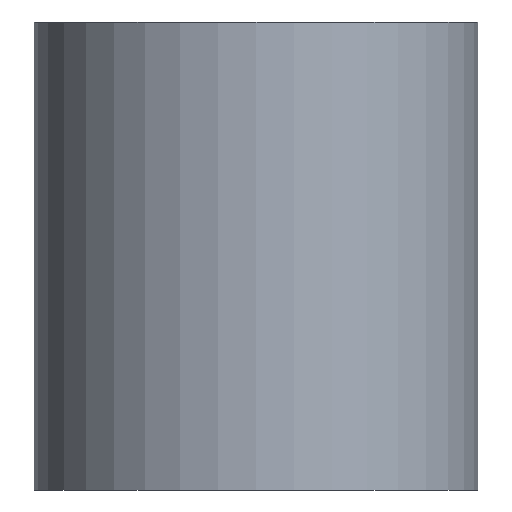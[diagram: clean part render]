
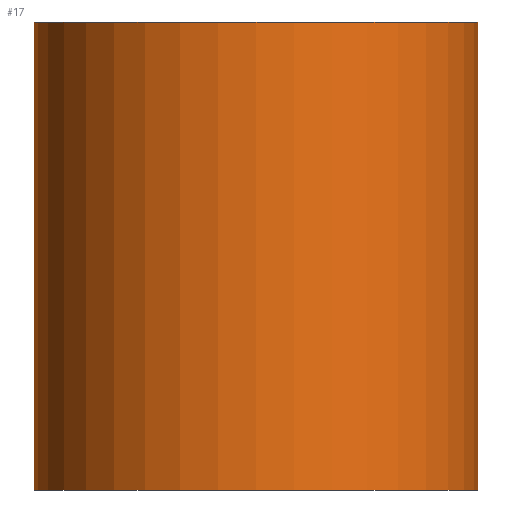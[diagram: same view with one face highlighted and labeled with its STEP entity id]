
A CAD part, front view. The second image highlights one B-rep face of the part: STEP entity #17.
In plain terms, the highlighted cylindrical face has radius 18 mm (diameter 36 mm), a full revolution.
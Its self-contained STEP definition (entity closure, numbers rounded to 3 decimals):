
#17 = ADVANCED_FACE('',(#18),#31,.T.);
#18 = FACE_BOUND('',#19,.T.);
#19 = EDGE_LOOP('',(#20,#54,#77,#104));
#20 = ORIENTED_EDGE('',*,*,#21,.F.);
#21 = EDGE_CURVE('',#22,#22,#24,.T.);
#22 = VERTEX_POINT('',#23);
#23 = CARTESIAN_POINT('',(-187.,-265.913,30.));
#24 = SURFACE_CURVE('',#25,(#30,#42),.PCURVE_S1.);
#25 = CIRCLE('',#26,18.);
#26 = AXIS2_PLACEMENT_3D('',#27,#28,#29);
#27 = CARTESIAN_POINT('',(-205.,-265.913,30.));
#28 = DIRECTION('',(0.,0.,1.));
#29 = DIRECTION('',(1.,0.,-0.));
#30 = PCURVE('',#31,#36);
#31 = CYLINDRICAL_SURFACE('',#32,18.);
#32 = AXIS2_PLACEMENT_3D('',#33,#34,#35);
#33 = CARTESIAN_POINT('',(-205.,-265.913,-8.));
#34 = DIRECTION('',(0.,0.,1.));
#35 = DIRECTION('',(1.,0.,-0.));
#36 = DEFINITIONAL_REPRESENTATION('',(#37),#41);
#37 = LINE('',#38,#39);
#38 = CARTESIAN_POINT('',(0.,38.));
#39 = VECTOR('',#40,1.);
#40 = DIRECTION('',(1.,0.));
#41 = ( GEOMETRIC_REPRESENTATION_CONTEXT(2) 
PARAMETRIC_REPRESENTATION_CONTEXT() REPRESENTATION_CONTEXT('2D SPACE',''
  ) );
#42 = PCURVE('',#43,#48);
#43 = PLANE('',#44);
#44 = AXIS2_PLACEMENT_3D('',#45,#46,#47);
#45 = CARTESIAN_POINT('',(-205.,-265.913,30.));
#46 = DIRECTION('',(0.,0.,1.));
#47 = DIRECTION('',(1.,0.,-0.));
#48 = DEFINITIONAL_REPRESENTATION('',(#49),#53);
#49 = CIRCLE('',#50,18.);
#50 = AXIS2_PLACEMENT_2D('',#51,#52);
#51 = CARTESIAN_POINT('',(0.,0.));
#52 = DIRECTION('',(1.,0.));
#53 = ( GEOMETRIC_REPRESENTATION_CONTEXT(2) 
PARAMETRIC_REPRESENTATION_CONTEXT() REPRESENTATION_CONTEXT('2D SPACE',''
  ) );
#54 = ORIENTED_EDGE('',*,*,#55,.F.);
#55 = EDGE_CURVE('',#56,#22,#58,.T.);
#56 = VERTEX_POINT('',#57);
#57 = CARTESIAN_POINT('',(-187.,-265.913,-8.));
#58 = SEAM_CURVE('',#59,(#63,#70),.PCURVE_S1.);
#59 = LINE('',#60,#61);
#60 = CARTESIAN_POINT('',(-187.,-265.913,-8.));
#61 = VECTOR('',#62,1.);
#62 = DIRECTION('',(0.,0.,1.));
#63 = PCURVE('',#31,#64);
#64 = DEFINITIONAL_REPRESENTATION('',(#65),#69);
#65 = LINE('',#66,#67);
#66 = CARTESIAN_POINT('',(6.283,-0.));
#67 = VECTOR('',#68,1.);
#68 = DIRECTION('',(0.,1.));
#69 = ( GEOMETRIC_REPRESENTATION_CONTEXT(2) 
PARAMETRIC_REPRESENTATION_CONTEXT() REPRESENTATION_CONTEXT('2D SPACE',''
  ) );
#70 = PCURVE('',#31,#71);
#71 = DEFINITIONAL_REPRESENTATION('',(#72),#76);
#72 = LINE('',#73,#74);
#73 = CARTESIAN_POINT('',(0.,-0.));
#74 = VECTOR('',#75,1.);
#75 = DIRECTION('',(0.,1.));
#76 = ( GEOMETRIC_REPRESENTATION_CONTEXT(2) 
PARAMETRIC_REPRESENTATION_CONTEXT() REPRESENTATION_CONTEXT('2D SPACE',''
  ) );
#77 = ORIENTED_EDGE('',*,*,#78,.T.);
#78 = EDGE_CURVE('',#56,#56,#79,.T.);
#79 = SURFACE_CURVE('',#80,(#85,#92),.PCURVE_S1.);
#80 = CIRCLE('',#81,18.);
#81 = AXIS2_PLACEMENT_3D('',#82,#83,#84);
#82 = CARTESIAN_POINT('',(-205.,-265.913,-8.));
#83 = DIRECTION('',(0.,0.,1.));
#84 = DIRECTION('',(1.,0.,-0.));
#85 = PCURVE('',#31,#86);
#86 = DEFINITIONAL_REPRESENTATION('',(#87),#91);
#87 = LINE('',#88,#89);
#88 = CARTESIAN_POINT('',(0.,0.));
#89 = VECTOR('',#90,1.);
#90 = DIRECTION('',(1.,0.));
#91 = ( GEOMETRIC_REPRESENTATION_CONTEXT(2) 
PARAMETRIC_REPRESENTATION_CONTEXT() REPRESENTATION_CONTEXT('2D SPACE',''
  ) );
#92 = PCURVE('',#93,#98);
#93 = PLANE('',#94);
#94 = AXIS2_PLACEMENT_3D('',#95,#96,#97);
#95 = CARTESIAN_POINT('',(-205.,-265.913,-8.));
#96 = DIRECTION('',(0.,0.,1.));
#97 = DIRECTION('',(1.,0.,-0.));
#98 = DEFINITIONAL_REPRESENTATION('',(#99),#103);
#99 = CIRCLE('',#100,18.);
#100 = AXIS2_PLACEMENT_2D('',#101,#102);
#101 = CARTESIAN_POINT('',(0.,0.));
#102 = DIRECTION('',(1.,0.));
#103 = ( GEOMETRIC_REPRESENTATION_CONTEXT(2) 
PARAMETRIC_REPRESENTATION_CONTEXT() REPRESENTATION_CONTEXT('2D SPACE',''
  ) );
#104 = ORIENTED_EDGE('',*,*,#55,.T.);
